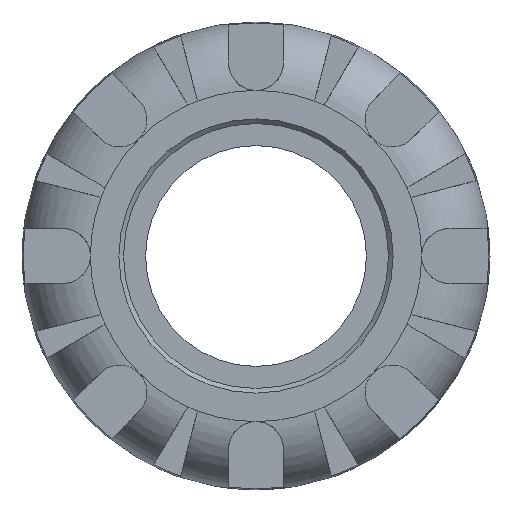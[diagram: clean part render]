
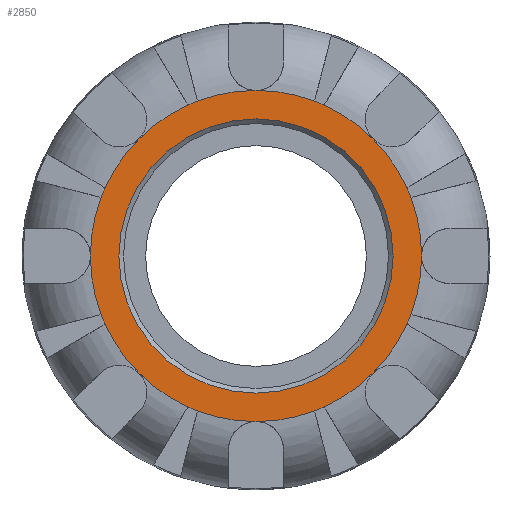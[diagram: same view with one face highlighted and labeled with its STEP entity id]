
A CAD part, left-side view. The second image highlights one B-rep face of the part: STEP entity #2850.
In plain terms, the highlighted planar face has unit normal (-1, 0, 0).
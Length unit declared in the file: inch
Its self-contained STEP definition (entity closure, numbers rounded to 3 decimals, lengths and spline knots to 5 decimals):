
#19=FACE_BOUND('',#619,.T.);
#34=PLANE('',#3049);
#454=FACE_OUTER_BOUND('',#618,.T.);
#618=EDGE_LOOP('',(#1823,#1824,#1825,#1826,#1827,#1828,#1829,#1830,#1831,
#1832,#1833,#1834,#1835,#1836,#1837,#1838,#1839,#1840,#1841,#1842,#1843,
#1844,#1845,#1846));
#619=EDGE_LOOP('',(#1847));
#785=CIRCLE('',#3046,0.54212);
#788=CIRCLE('',#3050,0.65453);
#789=CIRCLE('',#3051,0.65453);
#790=CIRCLE('',#3052,0.65453);
#791=CIRCLE('',#3053,0.65453);
#792=CIRCLE('',#3054,0.65453);
#793=CIRCLE('',#3055,0.65453);
#794=CIRCLE('',#3056,0.65453);
#795=CIRCLE('',#3057,0.65453);
#796=CIRCLE('',#3058,0.65453);
#797=CIRCLE('',#3059,0.65453);
#798=CIRCLE('',#3060,0.65453);
#799=CIRCLE('',#3061,0.65453);
#800=CIRCLE('',#3062,0.65453);
#801=CIRCLE('',#3063,0.65453);
#802=CIRCLE('',#3064,0.65453);
#803=CIRCLE('',#3065,0.65453);
#804=CIRCLE('',#3066,0.65453);
#805=CIRCLE('',#3067,0.65453);
#806=CIRCLE('',#3068,0.65453);
#807=CIRCLE('',#3069,0.65453);
#808=CIRCLE('',#3070,0.65453);
#809=CIRCLE('',#3071,0.65453);
#810=CIRCLE('',#3072,0.65453);
#811=CIRCLE('',#3073,0.65453);
#1077=VERTEX_POINT('',#4469);
#1080=VERTEX_POINT('',#4477);
#1081=VERTEX_POINT('',#4478);
#1082=VERTEX_POINT('',#4480);
#1083=VERTEX_POINT('',#4482);
#1084=VERTEX_POINT('',#4484);
#1085=VERTEX_POINT('',#4486);
#1086=VERTEX_POINT('',#4488);
#1087=VERTEX_POINT('',#4490);
#1088=VERTEX_POINT('',#4492);
#1089=VERTEX_POINT('',#4494);
#1090=VERTEX_POINT('',#4496);
#1091=VERTEX_POINT('',#4498);
#1092=VERTEX_POINT('',#4500);
#1093=VERTEX_POINT('',#4502);
#1094=VERTEX_POINT('',#4504);
#1095=VERTEX_POINT('',#4506);
#1096=VERTEX_POINT('',#4508);
#1097=VERTEX_POINT('',#4510);
#1098=VERTEX_POINT('',#4512);
#1099=VERTEX_POINT('',#4514);
#1100=VERTEX_POINT('',#4516);
#1101=VERTEX_POINT('',#4518);
#1102=VERTEX_POINT('',#4520);
#1103=VERTEX_POINT('',#4522);
#1363=EDGE_CURVE('',#1077,#1077,#785,.T.);
#1367=EDGE_CURVE('',#1080,#1081,#788,.T.);
#1368=EDGE_CURVE('',#1082,#1080,#789,.T.);
#1369=EDGE_CURVE('',#1083,#1082,#790,.T.);
#1370=EDGE_CURVE('',#1084,#1083,#791,.T.);
#1371=EDGE_CURVE('',#1085,#1084,#792,.T.);
#1372=EDGE_CURVE('',#1086,#1085,#793,.T.);
#1373=EDGE_CURVE('',#1087,#1086,#794,.T.);
#1374=EDGE_CURVE('',#1088,#1087,#795,.T.);
#1375=EDGE_CURVE('',#1089,#1088,#796,.T.);
#1376=EDGE_CURVE('',#1090,#1089,#797,.T.);
#1377=EDGE_CURVE('',#1091,#1090,#798,.T.);
#1378=EDGE_CURVE('',#1092,#1091,#799,.T.);
#1379=EDGE_CURVE('',#1093,#1092,#800,.T.);
#1380=EDGE_CURVE('',#1094,#1093,#801,.T.);
#1381=EDGE_CURVE('',#1095,#1094,#802,.T.);
#1382=EDGE_CURVE('',#1096,#1095,#803,.T.);
#1383=EDGE_CURVE('',#1097,#1096,#804,.T.);
#1384=EDGE_CURVE('',#1098,#1097,#805,.T.);
#1385=EDGE_CURVE('',#1099,#1098,#806,.T.);
#1386=EDGE_CURVE('',#1100,#1099,#807,.T.);
#1387=EDGE_CURVE('',#1101,#1100,#808,.T.);
#1388=EDGE_CURVE('',#1102,#1101,#809,.T.);
#1389=EDGE_CURVE('',#1103,#1102,#810,.T.);
#1390=EDGE_CURVE('',#1081,#1103,#811,.T.);
#1823=ORIENTED_EDGE('',*,*,#1367,.F.);
#1824=ORIENTED_EDGE('',*,*,#1368,.F.);
#1825=ORIENTED_EDGE('',*,*,#1369,.F.);
#1826=ORIENTED_EDGE('',*,*,#1370,.F.);
#1827=ORIENTED_EDGE('',*,*,#1371,.F.);
#1828=ORIENTED_EDGE('',*,*,#1372,.F.);
#1829=ORIENTED_EDGE('',*,*,#1373,.F.);
#1830=ORIENTED_EDGE('',*,*,#1374,.F.);
#1831=ORIENTED_EDGE('',*,*,#1375,.F.);
#1832=ORIENTED_EDGE('',*,*,#1376,.F.);
#1833=ORIENTED_EDGE('',*,*,#1377,.F.);
#1834=ORIENTED_EDGE('',*,*,#1378,.F.);
#1835=ORIENTED_EDGE('',*,*,#1379,.F.);
#1836=ORIENTED_EDGE('',*,*,#1380,.F.);
#1837=ORIENTED_EDGE('',*,*,#1381,.F.);
#1838=ORIENTED_EDGE('',*,*,#1382,.F.);
#1839=ORIENTED_EDGE('',*,*,#1383,.F.);
#1840=ORIENTED_EDGE('',*,*,#1384,.F.);
#1841=ORIENTED_EDGE('',*,*,#1385,.F.);
#1842=ORIENTED_EDGE('',*,*,#1386,.F.);
#1843=ORIENTED_EDGE('',*,*,#1387,.F.);
#1844=ORIENTED_EDGE('',*,*,#1388,.F.);
#1845=ORIENTED_EDGE('',*,*,#1389,.F.);
#1846=ORIENTED_EDGE('',*,*,#1390,.F.);
#1847=ORIENTED_EDGE('',*,*,#1363,.F.);
#2850=ADVANCED_FACE('',(#454,#19),#34,.T.);
#3046=AXIS2_PLACEMENT_3D('',#4470,#3418,#3419);
#3049=AXIS2_PLACEMENT_3D('',#4476,#3425,#3426);
#3050=AXIS2_PLACEMENT_3D('',#4479,#3427,#3428);
#3051=AXIS2_PLACEMENT_3D('',#4481,#3429,#3430);
#3052=AXIS2_PLACEMENT_3D('',#4483,#3431,#3432);
#3053=AXIS2_PLACEMENT_3D('',#4485,#3433,#3434);
#3054=AXIS2_PLACEMENT_3D('',#4487,#3435,#3436);
#3055=AXIS2_PLACEMENT_3D('',#4489,#3437,#3438);
#3056=AXIS2_PLACEMENT_3D('',#4491,#3439,#3440);
#3057=AXIS2_PLACEMENT_3D('',#4493,#3441,#3442);
#3058=AXIS2_PLACEMENT_3D('',#4495,#3443,#3444);
#3059=AXIS2_PLACEMENT_3D('',#4497,#3445,#3446);
#3060=AXIS2_PLACEMENT_3D('',#4499,#3447,#3448);
#3061=AXIS2_PLACEMENT_3D('',#4501,#3449,#3450);
#3062=AXIS2_PLACEMENT_3D('',#4503,#3451,#3452);
#3063=AXIS2_PLACEMENT_3D('',#4505,#3453,#3454);
#3064=AXIS2_PLACEMENT_3D('',#4507,#3455,#3456);
#3065=AXIS2_PLACEMENT_3D('',#4509,#3457,#3458);
#3066=AXIS2_PLACEMENT_3D('',#4511,#3459,#3460);
#3067=AXIS2_PLACEMENT_3D('',#4513,#3461,#3462);
#3068=AXIS2_PLACEMENT_3D('',#4515,#3463,#3464);
#3069=AXIS2_PLACEMENT_3D('',#4517,#3465,#3466);
#3070=AXIS2_PLACEMENT_3D('',#4519,#3467,#3468);
#3071=AXIS2_PLACEMENT_3D('',#4521,#3469,#3470);
#3072=AXIS2_PLACEMENT_3D('',#4523,#3471,#3472);
#3073=AXIS2_PLACEMENT_3D('',#4524,#3473,#3474);
#3418=DIRECTION('center_axis',(-1.,0.,0.));
#3419=DIRECTION('ref_axis',(0.,-1.,0.));
#3425=DIRECTION('center_axis',(-1.,0.,0.));
#3426=DIRECTION('ref_axis',(0.,0.,1.));
#3427=DIRECTION('center_axis',(1.,0.,0.));
#3428=DIRECTION('ref_axis',(0.,0.,-1.));
#3429=DIRECTION('center_axis',(1.,0.,0.));
#3430=DIRECTION('ref_axis',(0.,0.,-1.));
#3431=DIRECTION('center_axis',(1.,0.,0.));
#3432=DIRECTION('ref_axis',(0.,0.,-1.));
#3433=DIRECTION('center_axis',(1.,0.,0.));
#3434=DIRECTION('ref_axis',(0.,0.,-1.));
#3435=DIRECTION('center_axis',(1.,0.,0.));
#3436=DIRECTION('ref_axis',(0.,0.,-1.));
#3437=DIRECTION('center_axis',(1.,0.,0.));
#3438=DIRECTION('ref_axis',(0.,0.,-1.));
#3439=DIRECTION('center_axis',(1.,0.,0.));
#3440=DIRECTION('ref_axis',(0.,0.,-1.));
#3441=DIRECTION('center_axis',(1.,0.,0.));
#3442=DIRECTION('ref_axis',(0.,0.,-1.));
#3443=DIRECTION('center_axis',(1.,0.,0.));
#3444=DIRECTION('ref_axis',(0.,0.,-1.));
#3445=DIRECTION('center_axis',(1.,0.,0.));
#3446=DIRECTION('ref_axis',(0.,0.,-1.));
#3447=DIRECTION('center_axis',(1.,0.,0.));
#3448=DIRECTION('ref_axis',(0.,0.,-1.));
#3449=DIRECTION('center_axis',(1.,0.,0.));
#3450=DIRECTION('ref_axis',(0.,0.,-1.));
#3451=DIRECTION('center_axis',(1.,0.,0.));
#3452=DIRECTION('ref_axis',(0.,0.,-1.));
#3453=DIRECTION('center_axis',(1.,0.,0.));
#3454=DIRECTION('ref_axis',(0.,0.,-1.));
#3455=DIRECTION('center_axis',(1.,0.,0.));
#3456=DIRECTION('ref_axis',(0.,0.,-1.));
#3457=DIRECTION('center_axis',(1.,0.,0.));
#3458=DIRECTION('ref_axis',(0.,0.,-1.));
#3459=DIRECTION('center_axis',(1.,0.,0.));
#3460=DIRECTION('ref_axis',(0.,0.,-1.));
#3461=DIRECTION('center_axis',(1.,0.,0.));
#3462=DIRECTION('ref_axis',(0.,0.,-1.));
#3463=DIRECTION('center_axis',(1.,0.,0.));
#3464=DIRECTION('ref_axis',(0.,0.,-1.));
#3465=DIRECTION('center_axis',(1.,0.,0.));
#3466=DIRECTION('ref_axis',(0.,0.,-1.));
#3467=DIRECTION('center_axis',(1.,0.,0.));
#3468=DIRECTION('ref_axis',(0.,0.,-1.));
#3469=DIRECTION('center_axis',(1.,0.,0.));
#3470=DIRECTION('ref_axis',(0.,0.,-1.));
#3471=DIRECTION('center_axis',(1.,0.,0.));
#3472=DIRECTION('ref_axis',(0.,0.,-1.));
#3473=DIRECTION('center_axis',(1.,0.,0.));
#3474=DIRECTION('ref_axis',(0.,0.,-1.));
#4469=CARTESIAN_POINT('',(-1.925,0.54212,0.));
#4470=CARTESIAN_POINT('Origin',(-1.925,0.,0.));
#4476=CARTESIAN_POINT('Origin',(-1.925,0.65453,0.));
#4477=CARTESIAN_POINT('',(-1.925,0.65453,0.));
#4478=CARTESIAN_POINT('',(-1.925,0.61241,0.231));
#4479=CARTESIAN_POINT('Origin',(-1.925,0.,0.));
#4480=CARTESIAN_POINT('',(-1.925,0.61241,-0.231));
#4481=CARTESIAN_POINT('Origin',(-1.925,0.,0.));
#4482=CARTESIAN_POINT('',(-1.925,0.59638,-0.2697));
#4483=CARTESIAN_POINT('Origin',(-1.925,0.,0.));
#4484=CARTESIAN_POINT('',(-1.925,0.46282,-0.46282));
#4485=CARTESIAN_POINT('Origin',(-1.925,0.,0.));
#4486=CARTESIAN_POINT('',(-1.925,0.2697,-0.59638));
#4487=CARTESIAN_POINT('Origin',(-1.925,0.,0.));
#4488=CARTESIAN_POINT('',(-1.925,0.231,-0.61241));
#4489=CARTESIAN_POINT('Origin',(-1.925,0.,0.));
#4490=CARTESIAN_POINT('',(-1.925,0.,-0.65453));
#4491=CARTESIAN_POINT('Origin',(-1.925,0.,0.));
#4492=CARTESIAN_POINT('',(-1.925,-0.231,-0.61241));
#4493=CARTESIAN_POINT('Origin',(-1.925,0.,0.));
#4494=CARTESIAN_POINT('',(-1.925,-0.2697,-0.59638));
#4495=CARTESIAN_POINT('Origin',(-1.925,0.,0.));
#4496=CARTESIAN_POINT('',(-1.925,-0.46282,-0.46282));
#4497=CARTESIAN_POINT('Origin',(-1.925,0.,0.));
#4498=CARTESIAN_POINT('',(-1.925,-0.59638,-0.2697));
#4499=CARTESIAN_POINT('Origin',(-1.925,0.,0.));
#4500=CARTESIAN_POINT('',(-1.925,-0.61241,-0.231));
#4501=CARTESIAN_POINT('Origin',(-1.925,0.,0.));
#4502=CARTESIAN_POINT('',(-1.925,-0.65453,0.));
#4503=CARTESIAN_POINT('Origin',(-1.925,0.,0.));
#4504=CARTESIAN_POINT('',(-1.925,-0.61241,0.231));
#4505=CARTESIAN_POINT('Origin',(-1.925,0.,0.));
#4506=CARTESIAN_POINT('',(-1.925,-0.59638,0.2697));
#4507=CARTESIAN_POINT('Origin',(-1.925,0.,0.));
#4508=CARTESIAN_POINT('',(-1.925,-0.46282,0.46282));
#4509=CARTESIAN_POINT('Origin',(-1.925,0.,0.));
#4510=CARTESIAN_POINT('',(-1.925,-0.2697,0.59638));
#4511=CARTESIAN_POINT('Origin',(-1.925,0.,0.));
#4512=CARTESIAN_POINT('',(-1.925,-0.231,0.61241));
#4513=CARTESIAN_POINT('Origin',(-1.925,0.,0.));
#4514=CARTESIAN_POINT('',(-1.925,0.,0.65453));
#4515=CARTESIAN_POINT('Origin',(-1.925,0.,0.));
#4516=CARTESIAN_POINT('',(-1.925,0.231,0.61241));
#4517=CARTESIAN_POINT('Origin',(-1.925,0.,0.));
#4518=CARTESIAN_POINT('',(-1.925,0.2697,0.59638));
#4519=CARTESIAN_POINT('Origin',(-1.925,0.,0.));
#4520=CARTESIAN_POINT('',(-1.925,0.46282,0.46282));
#4521=CARTESIAN_POINT('Origin',(-1.925,0.,0.));
#4522=CARTESIAN_POINT('',(-1.925,0.59638,0.2697));
#4523=CARTESIAN_POINT('Origin',(-1.925,0.,0.));
#4524=CARTESIAN_POINT('Origin',(-1.925,0.,0.));
